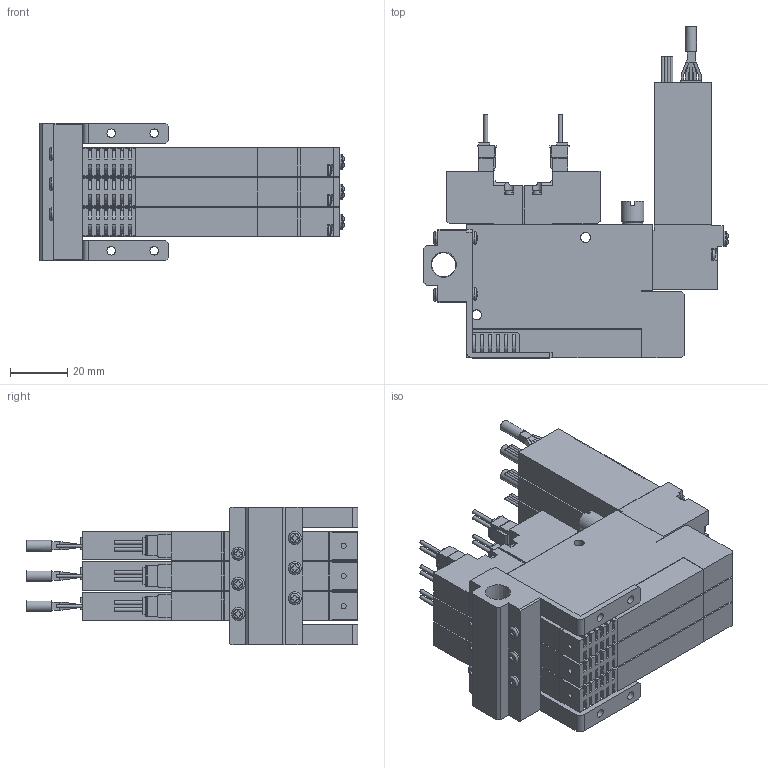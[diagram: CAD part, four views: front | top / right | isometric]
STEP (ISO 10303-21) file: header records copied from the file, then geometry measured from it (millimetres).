
FILE_DESCRIPTION(('STEP AP203'),'1');
FILE_NAME('5SS303_3D.stp','2024-09-04T09:43:50',(' '),(' '),'Spatial InterOp 3D',' ',' ');
FILE_SCHEMA(('CONFIG_CONTROL_DESIGN'));
Length unit declared in the file: millimetre
Products named in the file (5): BSC1M※※10※5SS303; Solenoid valve S; Pressure Sensor 10; Unit-S; BaseMS30R
Assembly tree (10 placements, depth 2):
  BSC1M※※10※5SS303
    Solenoid valve S  x3
    Pressure Sensor 10  x3
    Unit-S  x3
    BaseMS30R
Bounding box: 106.35 x 115.8 x 48 mm (x, y, z)
Volume: 178260.4 mm3; surface area: 71742.5 mm2
Topology: 10 solids, 10 shells, 1643 faces, 4494 edges, 2974 vertices
Faces by surface type: plane 1213, cylinder 375, torus 19, sphere 19, cone 17
Full cylindrical faces by diameter (mm): 0.9 x12, 1.4 x12, 1.8 x3, 2.5 x6, 3 x16, 3.5 x24, 3.8 x3, 4 x3, 4.134 x6, 4.5 x10, 5.5 x6, 7 x3, 7.7 x3, 8 x3, 8.422 x1
Entity records: 21486 total; most frequent: CARTESIAN_POINT 4569, ORIENTED_EDGE 3396, DIRECTION 3362, EDGE_CURVE 1698, LINE 1244, VECTOR 1244, VERTEX_POINT 1168, AXIS2_PLACEMENT_3D 1059
